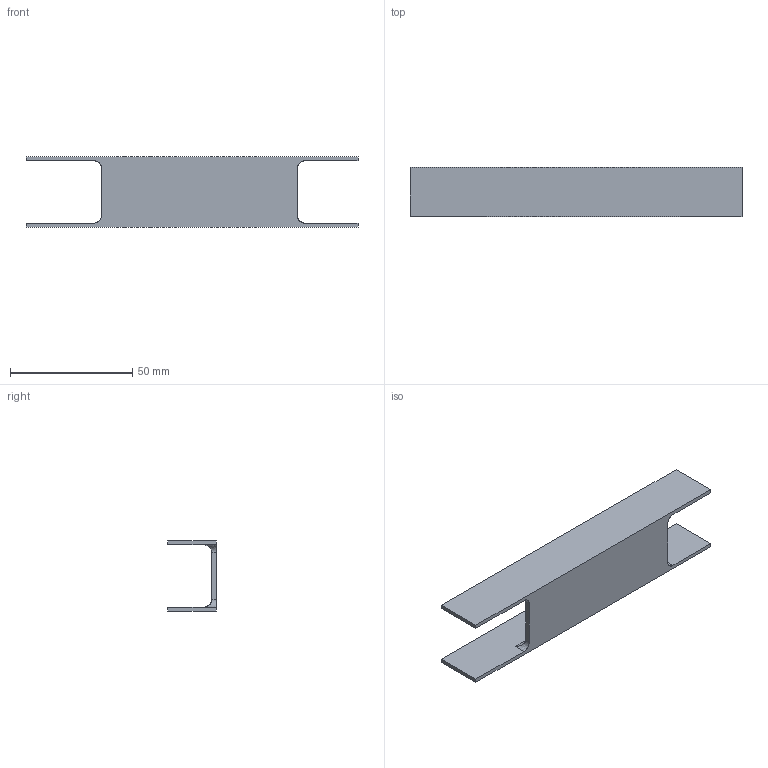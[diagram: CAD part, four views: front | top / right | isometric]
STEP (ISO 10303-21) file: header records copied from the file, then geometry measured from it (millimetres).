
FILE_DESCRIPTION(/* description */ ('STEP AP242 Edition 2','CAx-IF Rec.Pracs.---Representation and Presentation of Product Manufacturing Information (PMI)---4.0---2014-10-13','CAx-IF Rec.Pracs.---3D Tessellated Geometry---0.4---2014-09-14','2;1','CAx-IF Rec.Pracs.---User Defined Attributes---1.5---2016-08-15'),/* implementation_level */ '2;1');
FILE_NAME(/* name */ 'MHL - suporte_bateria',/* time_stamp */ '2025-11-29T18:38:08Z',/* author */ (''),/* organization */ (''),/* preprocessor_version */ 'ST-DEVELOPER v20',/* originating_system */ 'ONSHAPE BY PTC INC, 1.207',/* authorisation */ ' ');
FILE_SCHEMA (('AP242_MANAGED_MODEL_BASED_3D_ENGINEERING_MIM_LF { 1 0 10303 442 3 1 4 }'));
Length unit declared in the file: metre
Products named in the file (1): suporte_bateria
Bounding box: 135.6 x 20 x 28.6 mm (x, y, z)
Volume: 13084.6 mm3; surface area: 15483.9 mm2
Topology: 1 solids, 1 shells, 20 faces, 50 edges, 32 vertices
Faces by surface type: plane 14, bspline 6
Entity records: 778 total; most frequent: CARTESIAN_POINT 335, ORIENTED_EDGE 100, DIRECTION 60, EDGE_CURVE 50, VERTEX_POINT 32, LINE 30, VECTOR 30, B_SPLINE_CURVE_WITH_KNOTS 20
